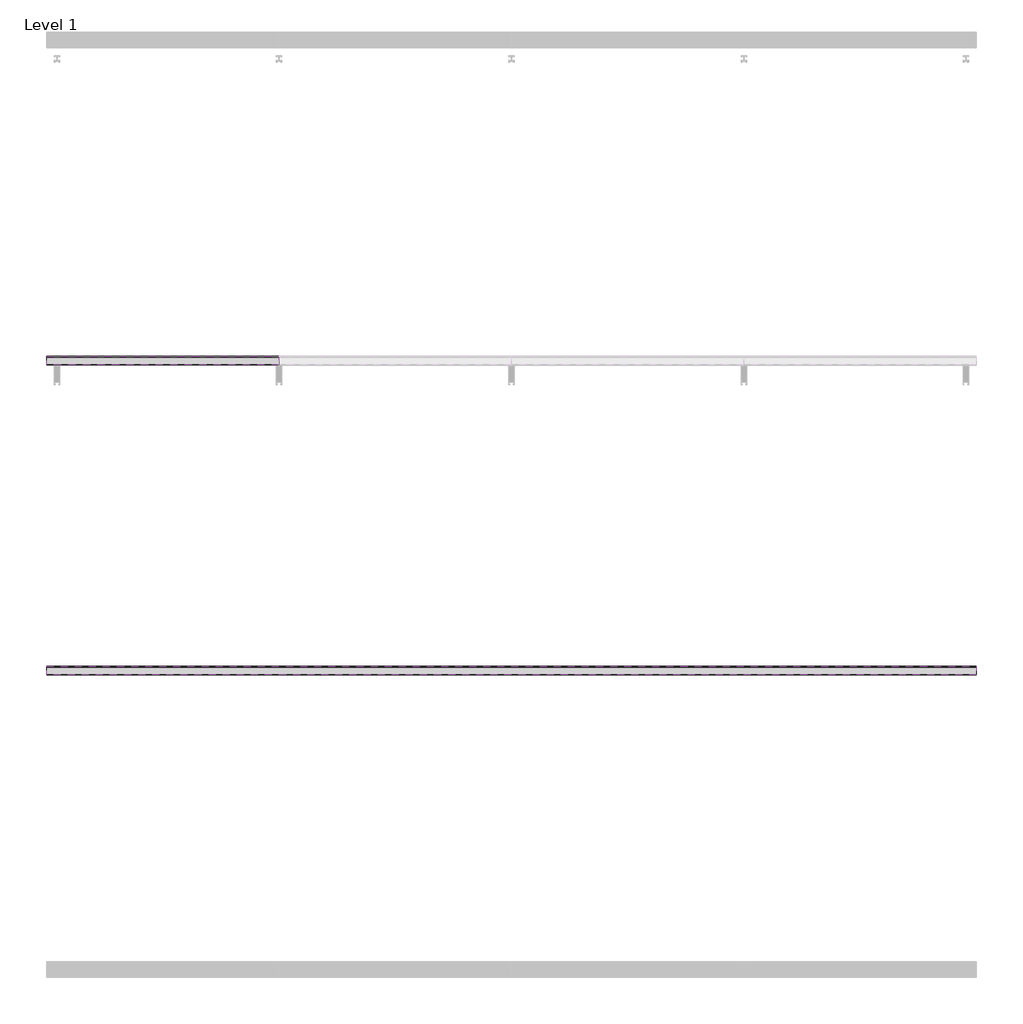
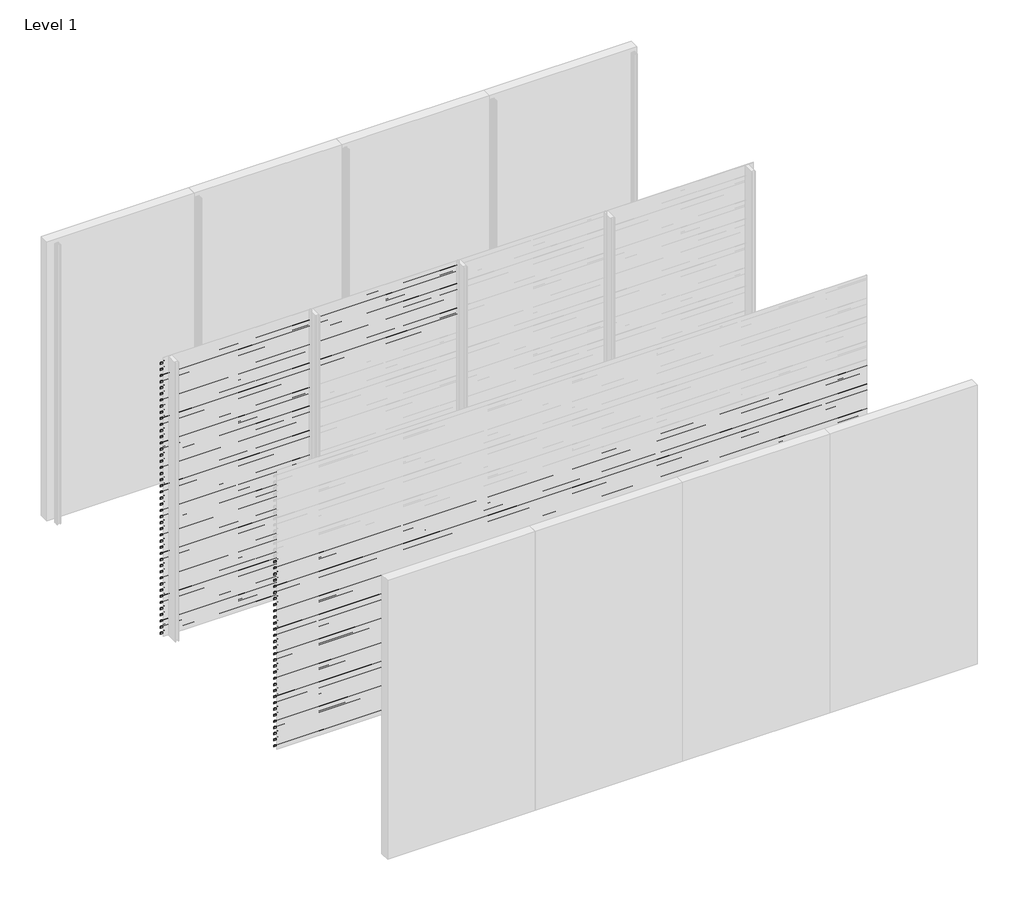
# One storey, part 3 of 25: 87 proxies.
"""IFC4 building model written with IfcOpenShell, lengths in millimetres."""

from ifc_helpers import new_model, si_unit, frame, origin, place, context, project, spatial, polyline, outline, extrude, element, save

model = new_model("IFC4")

# Units and contexts
model_context = context("Model", 3, world=origin())
ifc_project = project(units=[si_unit("LENGTHUNIT", "METRE", prefix="MILLI")], contexts=[model_context])

# Site, building, storey
site = spatial("IfcSite", under=ifc_project)
building = spatial("IfcBuilding", under=site)
storey = spatial("IfcBuildingStorey", under=building, Name="Level 1", Elevation=0.0)

# Proxies
placement = place(None, origin())
element("IfcBuildingElementProxy", 1, Name="Wall Sweeps", at=placement, inside=storey, context=model_context, shape_type="SweptSolid", body=[
    extrude(outline(polyline([(-47943.0, 2913.5), (-47943.0, 2893.5), (-47944.25, 2894.2216933), (-47944.25, 2912.7872415), (-47998.0, 2950.3158044), (-47998.0, 2970.0), (-47996.75, 2970.0), (-47996.75, 2951.0285629), (-47943.0, 2913.5)])), frame((0.0, 0.0, 0.0), z_axis=(1.0, 0.0, 0.0), x_axis=(0.0, 1.0, 0.0)), (0.0, 0.0, 1.0), 1500.0),
])
element("IfcBuildingElementProxy", 2, Name="Wall Sweeps", at=placement, inside=storey, context=model_context, shape_type="SweptSolid", body=[
    extrude(outline(polyline([(-47943.0, 2847.5), (-47943.0, 2827.5), (-47944.25, 2828.2216933), (-47944.25, 2846.7872415), (-47998.0, 2884.3158044), (-47998.0, 2904.0), (-47996.75, 2904.0), (-47996.75, 2885.0285629), (-47943.0, 2847.5)])), frame((0.0, 0.0, 0.0), z_axis=(1.0, 0.0, 0.0), x_axis=(0.0, 1.0, 0.0)), (0.0, 0.0, 1.0), 1500.0),
])
element("IfcBuildingElementProxy", 3, Name="Wall Sweeps", at=placement, inside=storey, context=model_context, shape_type="SweptSolid", body=[
    extrude(outline(polyline([(-47943.0, 2781.5), (-47943.0, 2761.5), (-47944.25, 2762.2216933), (-47944.25, 2780.7872415), (-47998.0, 2818.3158044), (-47998.0, 2838.0), (-47996.75, 2838.0), (-47996.75, 2819.0285629), (-47943.0, 2781.5)])), frame((0.0, 0.0, 0.0), z_axis=(1.0, 0.0, 0.0), x_axis=(0.0, 1.0, 0.0)), (0.0, 0.0, 1.0), 1500.0),
])
element("IfcBuildingElementProxy", 4, Name="Wall Sweeps", at=placement, inside=storey, context=model_context, shape_type="SweptSolid", body=[
    extrude(outline(polyline([(-47943.0, 2715.5), (-47943.0, 2695.5), (-47944.25, 2696.2216933), (-47944.25, 2714.7872415), (-47998.0, 2752.3158044), (-47998.0, 2772.0), (-47996.75, 2772.0), (-47996.75, 2753.0285629), (-47943.0, 2715.5)])), frame((0.0, 0.0, 0.0), z_axis=(1.0, 0.0, 0.0), x_axis=(0.0, 1.0, 0.0)), (0.0, 0.0, 1.0), 1500.0),
])
element("IfcBuildingElementProxy", 5, Name="Wall Sweeps", at=placement, inside=storey, context=model_context, shape_type="SweptSolid", body=[
    extrude(outline(polyline([(-47943.0, 2649.5), (-47943.0, 2629.5), (-47944.25, 2630.2216933), (-47944.25, 2648.7872415), (-47998.0, 2686.3158044), (-47998.0, 2706.0), (-47996.75, 2706.0), (-47996.75, 2687.0285629), (-47943.0, 2649.5)])), frame((0.0, 0.0, 0.0), z_axis=(1.0, 0.0, 0.0), x_axis=(0.0, 1.0, 0.0)), (0.0, 0.0, 1.0), 1500.0),
])
element("IfcBuildingElementProxy", 6, Name="Wall Sweeps", at=placement, inside=storey, context=model_context, shape_type="SweptSolid", body=[
    extrude(outline(polyline([(-47943.0, 2583.5), (-47943.0, 2563.5), (-47944.25, 2564.2216933), (-47944.25, 2582.7872415), (-47998.0, 2620.3158044), (-47998.0, 2640.0), (-47996.75, 2640.0), (-47996.75, 2621.0285629), (-47943.0, 2583.5)])), frame((0.0, 0.0, 0.0), z_axis=(1.0, 0.0, 0.0), x_axis=(0.0, 1.0, 0.0)), (0.0, 0.0, 1.0), 1500.0),
])
element("IfcBuildingElementProxy", 7, Name="Wall Sweeps", at=placement, inside=storey, context=model_context, shape_type="SweptSolid", body=[
    extrude(outline(polyline([(-47943.0, 2517.5), (-47943.0, 2497.5), (-47944.25, 2498.2216933), (-47944.25, 2516.7872415), (-47998.0, 2554.3158044), (-47998.0, 2574.0), (-47996.75, 2574.0), (-47996.75, 2555.0285629), (-47943.0, 2517.5)])), frame((0.0, 0.0, 0.0), z_axis=(1.0, 0.0, 0.0), x_axis=(0.0, 1.0, 0.0)), (0.0, 0.0, 1.0), 1500.0),
])
element("IfcBuildingElementProxy", 8, Name="Wall Sweeps", at=placement, inside=storey, context=model_context, shape_type="SweptSolid", body=[
    extrude(outline(polyline([(-47943.0, 2451.5), (-47943.0, 2431.5), (-47944.25, 2432.2216933), (-47944.25, 2450.7872415), (-47998.0, 2488.3158044), (-47998.0, 2508.0), (-47996.75, 2508.0), (-47996.75, 2489.0285629), (-47943.0, 2451.5)])), frame((0.0, 0.0, 0.0), z_axis=(1.0, 0.0, 0.0), x_axis=(0.0, 1.0, 0.0)), (0.0, 0.0, 1.0), 1500.0),
])
element("IfcBuildingElementProxy", 9, Name="Wall Sweeps", at=placement, inside=storey, context=model_context, shape_type="SweptSolid", body=[
    extrude(outline(polyline([(-47943.0, 2385.5), (-47943.0, 2365.5), (-47944.25, 2366.2216933), (-47944.25, 2384.7872415), (-47998.0, 2422.3158044), (-47998.0, 2442.0), (-47996.75, 2442.0), (-47996.75, 2423.0285629), (-47943.0, 2385.5)])), frame((0.0, 0.0, 0.0), z_axis=(1.0, 0.0, 0.0), x_axis=(0.0, 1.0, 0.0)), (0.0, 0.0, 1.0), 1500.0),
])
element("IfcBuildingElementProxy", 10, Name="Wall Sweeps", at=placement, inside=storey, context=model_context, shape_type="SweptSolid", body=[
    extrude(outline(polyline([(-47943.0, 2319.5), (-47943.0, 2299.5), (-47944.25, 2300.2216933), (-47944.25, 2318.7872415), (-47998.0, 2356.3158044), (-47998.0, 2376.0), (-47996.75, 2376.0), (-47996.75, 2357.0285629), (-47943.0, 2319.5)])), frame((0.0, 0.0, 0.0), z_axis=(1.0, 0.0, 0.0), x_axis=(0.0, 1.0, 0.0)), (0.0, 0.0, 1.0), 1500.0),
])
element("IfcBuildingElementProxy", 11, Name="Wall Sweeps", at=placement, inside=storey, context=model_context, shape_type="SweptSolid", body=[
    extrude(outline(polyline([(-47943.0, 2253.5), (-47943.0, 2233.5), (-47944.25, 2234.2216933), (-47944.25, 2252.7872415), (-47998.0, 2290.3158044), (-47998.0, 2310.0), (-47996.75, 2310.0), (-47996.75, 2291.0285629), (-47943.0, 2253.5)])), frame((0.0, 0.0, 0.0), z_axis=(1.0, 0.0, 0.0), x_axis=(0.0, 1.0, 0.0)), (0.0, 0.0, 1.0), 1500.0),
])
element("IfcBuildingElementProxy", 12, Name="Wall Sweeps", at=placement, inside=storey, context=model_context, shape_type="SweptSolid", body=[
    extrude(outline(polyline([(-47943.0, 2187.5), (-47943.0, 2167.5), (-47944.25, 2168.2216933), (-47944.25, 2186.7872415), (-47998.0, 2224.3158044), (-47998.0, 2244.0), (-47996.75, 2244.0), (-47996.75, 2225.0285629), (-47943.0, 2187.5)])), frame((0.0, 0.0, 0.0), z_axis=(1.0, 0.0, 0.0), x_axis=(0.0, 1.0, 0.0)), (0.0, 0.0, 1.0), 1500.0),
])
element("IfcBuildingElementProxy", 13, Name="Wall Sweeps", at=placement, inside=storey, context=model_context, shape_type="SweptSolid", body=[
    extrude(outline(polyline([(-47943.0, 2121.5), (-47943.0, 2101.5), (-47944.25, 2102.2216933), (-47944.25, 2120.7872415), (-47998.0, 2158.3158044), (-47998.0, 2178.0), (-47996.75, 2178.0), (-47996.75, 2159.0285629), (-47943.0, 2121.5)])), frame((0.0, 0.0, 0.0), z_axis=(1.0, 0.0, 0.0), x_axis=(0.0, 1.0, 0.0)), (0.0, 0.0, 1.0), 1500.0),
])
element("IfcBuildingElementProxy", 14, Name="Wall Sweeps", at=placement, inside=storey, context=model_context, shape_type="SweptSolid", body=[
    extrude(outline(polyline([(-47943.0, 2055.5), (-47943.0, 2035.5), (-47944.25, 2036.2216933), (-47944.25, 2054.7872415), (-47998.0, 2092.3158044), (-47998.0, 2112.0), (-47996.75, 2112.0), (-47996.75, 2093.0285629), (-47943.0, 2055.5)])), frame((0.0, 0.0, 0.0), z_axis=(1.0, 0.0, 0.0), x_axis=(0.0, 1.0, 0.0)), (0.0, 0.0, 1.0), 1500.0),
])
element("IfcBuildingElementProxy", 15, Name="Wall Sweeps", at=placement, inside=storey, context=model_context, shape_type="SweptSolid", body=[
    extrude(outline(polyline([(-47943.0, 1989.5), (-47943.0, 1969.5), (-47944.25, 1970.2216933), (-47944.25, 1988.7872415), (-47998.0, 2026.3158044), (-47998.0, 2046.0), (-47996.75, 2046.0), (-47996.75, 2027.0285629), (-47943.0, 1989.5)])), frame((0.0, 0.0, 0.0), z_axis=(1.0, 0.0, 0.0), x_axis=(0.0, 1.0, 0.0)), (0.0, 0.0, 1.0), 1500.0),
])
element("IfcBuildingElementProxy", 16, Name="Wall Sweeps", at=placement, inside=storey, context=model_context, shape_type="SweptSolid", body=[
    extrude(outline(polyline([(-47943.0, 1923.5), (-47943.0, 1903.5), (-47944.25, 1904.2216933), (-47944.25, 1922.7872415), (-47998.0, 1960.3158044), (-47998.0, 1980.0), (-47996.75, 1980.0), (-47996.75, 1961.0285629), (-47943.0, 1923.5)])), frame((0.0, 0.0, 0.0), z_axis=(1.0, 0.0, 0.0), x_axis=(0.0, 1.0, 0.0)), (0.0, 0.0, 1.0), 1500.0),
])
element("IfcBuildingElementProxy", 17, Name="Wall Sweeps", at=placement, inside=storey, context=model_context, shape_type="SweptSolid", body=[
    extrude(outline(polyline([(-47943.0, 1857.5), (-47943.0, 1837.5), (-47944.25, 1838.2216933), (-47944.25, 1856.7872415), (-47998.0, 1894.3158044), (-47998.0, 1914.0), (-47996.75, 1914.0), (-47996.75, 1895.0285629), (-47943.0, 1857.5)])), frame((0.0, 0.0, 0.0), z_axis=(1.0, 0.0, 0.0), x_axis=(0.0, 1.0, 0.0)), (0.0, 0.0, 1.0), 1500.0),
])
element("IfcBuildingElementProxy", 18, Name="Wall Sweeps", at=placement, inside=storey, context=model_context, shape_type="SweptSolid", body=[
    extrude(outline(polyline([(-47943.0, 1791.5), (-47943.0, 1771.5), (-47944.25, 1772.2216933), (-47944.25, 1790.7872415), (-47998.0, 1828.3158044), (-47998.0, 1848.0), (-47996.75, 1848.0), (-47996.75, 1829.0285629), (-47943.0, 1791.5)])), frame((0.0, 0.0, 0.0), z_axis=(1.0, 0.0, 0.0), x_axis=(0.0, 1.0, 0.0)), (0.0, 0.0, 1.0), 1500.0),
])
element("IfcBuildingElementProxy", 19, Name="Wall Sweeps", at=placement, inside=storey, context=model_context, shape_type="SweptSolid", body=[
    extrude(outline(polyline([(-47943.0, 1725.5), (-47943.0, 1705.5), (-47944.25, 1706.2216933), (-47944.25, 1724.7872415), (-47998.0, 1762.3158044), (-47998.0, 1782.0), (-47996.75, 1782.0), (-47996.75, 1763.0285629), (-47943.0, 1725.5)])), frame((0.0, 0.0, 0.0), z_axis=(1.0, 0.0, 0.0), x_axis=(0.0, 1.0, 0.0)), (0.0, 0.0, 1.0), 1500.0),
])
element("IfcBuildingElementProxy", 20, Name="Wall Sweeps", at=placement, inside=storey, context=model_context, shape_type="SweptSolid", body=[
    extrude(outline(polyline([(-47943.0, 1659.5), (-47943.0, 1639.5), (-47944.25, 1640.2216933), (-47944.25, 1658.7872415), (-47998.0, 1696.3158044), (-47998.0, 1716.0), (-47996.75, 1716.0), (-47996.75, 1697.0285629), (-47943.0, 1659.5)])), frame((0.0, 0.0, 0.0), z_axis=(1.0, 0.0, 0.0), x_axis=(0.0, 1.0, 0.0)), (0.0, 0.0, 1.0), 1500.0),
])
element("IfcBuildingElementProxy", 21, Name="Wall Sweeps", at=placement, inside=storey, context=model_context, shape_type="SweptSolid", body=[
    extrude(outline(polyline([(-47943.0, 1593.5), (-47943.0, 1573.5), (-47944.25, 1574.2216933), (-47944.25, 1592.7872415), (-47998.0, 1630.3158044), (-47998.0, 1650.0), (-47996.75, 1650.0), (-47996.75, 1631.0285629), (-47943.0, 1593.5)])), frame((0.0, 0.0, 0.0), z_axis=(1.0, 0.0, 0.0), x_axis=(0.0, 1.0, 0.0)), (0.0, 0.0, 1.0), 1500.0),
])
element("IfcBuildingElementProxy", 22, Name="Wall Sweeps", at=placement, inside=storey, context=model_context, shape_type="SweptSolid", body=[
    extrude(outline(polyline([(-47943.0, 1527.5), (-47943.0, 1507.5), (-47944.25, 1508.2216933), (-47944.25, 1526.7872415), (-47998.0, 1564.3158044), (-47998.0, 1584.0), (-47996.75, 1584.0), (-47996.75, 1565.0285629), (-47943.0, 1527.5)])), frame((0.0, 0.0, 0.0), z_axis=(1.0, 0.0, 0.0), x_axis=(0.0, 1.0, 0.0)), (0.0, 0.0, 1.0), 1500.0),
])
element("IfcBuildingElementProxy", 23, Name="Wall Sweeps", at=placement, inside=storey, context=model_context, shape_type="SweptSolid", body=[
    extrude(outline(polyline([(-47943.0, 1461.5), (-47943.0, 1441.5), (-47944.25, 1442.2216933), (-47944.25, 1460.7872415), (-47998.0, 1498.3158044), (-47998.0, 1518.0), (-47996.75, 1518.0), (-47996.75, 1499.0285629), (-47943.0, 1461.5)])), frame((0.0, 0.0, 0.0), z_axis=(1.0, 0.0, 0.0), x_axis=(0.0, 1.0, 0.0)), (0.0, 0.0, 1.0), 1500.0),
])
element("IfcBuildingElementProxy", 24, Name="Wall Sweeps", at=placement, inside=storey, context=model_context, shape_type="SweptSolid", body=[
    extrude(outline(polyline([(-47943.0, 1395.5), (-47943.0, 1375.5), (-47944.25, 1376.2216933), (-47944.25, 1394.7872415), (-47998.0, 1432.3158044), (-47998.0, 1452.0), (-47996.75, 1452.0), (-47996.75, 1433.0285629), (-47943.0, 1395.5)])), frame((0.0, 0.0, 0.0), z_axis=(1.0, 0.0, 0.0), x_axis=(0.0, 1.0, 0.0)), (0.0, 0.0, 1.0), 1500.0),
])
element("IfcBuildingElementProxy", 25, Name="Wall Sweeps", at=placement, inside=storey, context=model_context, shape_type="SweptSolid", body=[
    extrude(outline(polyline([(-47943.0, 1329.5), (-47943.0, 1309.5), (-47944.25, 1310.2216933), (-47944.25, 1328.7872415), (-47998.0, 1366.3158044), (-47998.0, 1386.0), (-47996.75, 1386.0), (-47996.75, 1367.0285629), (-47943.0, 1329.5)])), frame((0.0, 0.0, 0.0), z_axis=(1.0, 0.0, 0.0), x_axis=(0.0, 1.0, 0.0)), (0.0, 0.0, 1.0), 1500.0),
])
element("IfcBuildingElementProxy", 26, Name="Wall Sweeps", at=placement, inside=storey, context=model_context, shape_type="SweptSolid", body=[
    extrude(outline(polyline([(-47943.0, 1263.5), (-47943.0, 1243.5), (-47944.25, 1244.2216933), (-47944.25, 1262.7872415), (-47998.0, 1300.3158044), (-47998.0, 1320.0), (-47996.75, 1320.0), (-47996.75, 1301.0285629), (-47943.0, 1263.5)])), frame((0.0, 0.0, 0.0), z_axis=(1.0, 0.0, 0.0), x_axis=(0.0, 1.0, 0.0)), (0.0, 0.0, 1.0), 1500.0),
])
element("IfcBuildingElementProxy", 27, Name="Wall Sweeps", at=placement, inside=storey, context=model_context, shape_type="SweptSolid", body=[
    extrude(outline(polyline([(-47943.0, 1197.5), (-47943.0, 1177.5), (-47944.25, 1178.2216933), (-47944.25, 1196.7872415), (-47998.0, 1234.3158044), (-47998.0, 1254.0), (-47996.75, 1254.0), (-47996.75, 1235.0285629), (-47943.0, 1197.5)])), frame((0.0, 0.0, 0.0), z_axis=(1.0, 0.0, 0.0), x_axis=(0.0, 1.0, 0.0)), (0.0, 0.0, 1.0), 1500.0),
])
element("IfcBuildingElementProxy", 28, Name="Wall Sweeps", at=placement, inside=storey, context=model_context, shape_type="SweptSolid", body=[
    extrude(outline(polyline([(-47943.0, 1131.5), (-47943.0, 1111.5), (-47944.25, 1112.2216933), (-47944.25, 1130.7872415), (-47998.0, 1168.3158044), (-47998.0, 1188.0), (-47996.75, 1188.0), (-47996.75, 1169.0285629), (-47943.0, 1131.5)])), frame((0.0, 0.0, 0.0), z_axis=(1.0, 0.0, 0.0), x_axis=(0.0, 1.0, 0.0)), (0.0, 0.0, 1.0), 1500.0),
])
element("IfcBuildingElementProxy", 29, Name="Wall Sweeps", at=placement, inside=storey, context=model_context, shape_type="SweptSolid", body=[
    extrude(outline(polyline([(-47943.0, 1065.5), (-47943.0, 1045.5), (-47944.25, 1046.2216933), (-47944.25, 1064.7872415), (-47998.0, 1102.3158044), (-47998.0, 1122.0), (-47996.75, 1122.0), (-47996.75, 1103.0285629), (-47943.0, 1065.5)])), frame((0.0, 0.0, 0.0), z_axis=(1.0, 0.0, 0.0), x_axis=(0.0, 1.0, 0.0)), (0.0, 0.0, 1.0), 1500.0),
])
element("IfcBuildingElementProxy", 30, Name="Wall Sweeps", at=placement, inside=storey, context=model_context, shape_type="SweptSolid", body=[
    extrude(outline(polyline([(-47943.0, 999.5), (-47943.0, 979.5), (-47944.25, 980.2216933), (-47944.25, 998.7872415), (-47998.0, 1036.3158044), (-47998.0, 1056.0), (-47996.75, 1056.0), (-47996.75, 1037.0285629), (-47943.0, 999.5)])), frame((0.0, 0.0, 0.0), z_axis=(1.0, 0.0, 0.0), x_axis=(0.0, 1.0, 0.0)), (0.0, 0.0, 1.0), 1500.0),
])
element("IfcBuildingElementProxy", 31, Name="Wall Sweeps", at=placement, inside=storey, context=model_context, shape_type="SweptSolid", body=[
    extrude(outline(polyline([(-47943.0, 933.5), (-47943.0, 913.5), (-47944.25, 914.2216933), (-47944.25, 932.7872415), (-47998.0, 970.3158044), (-47998.0, 990.0), (-47996.75, 990.0), (-47996.75, 971.0285629), (-47943.0, 933.5)])), frame((0.0, 0.0, 0.0), z_axis=(1.0, 0.0, 0.0), x_axis=(0.0, 1.0, 0.0)), (0.0, 0.0, 1.0), 1500.0),
])
element("IfcBuildingElementProxy", 32, Name="Wall Sweeps", at=placement, inside=storey, context=model_context, shape_type="SweptSolid", body=[
    extrude(outline(polyline([(-47943.0, 867.5), (-47943.0, 847.5), (-47944.25, 848.2216933), (-47944.25, 866.7872415), (-47998.0, 904.3158044), (-47998.0, 924.0), (-47996.75, 924.0), (-47996.75, 905.0285629), (-47943.0, 867.5)])), frame((0.0, 0.0, 0.0), z_axis=(1.0, 0.0, 0.0), x_axis=(0.0, 1.0, 0.0)), (0.0, 0.0, 1.0), 1500.0),
])
element("IfcBuildingElementProxy", 33, Name="Wall Sweeps", at=placement, inside=storey, context=model_context, shape_type="SweptSolid", body=[
    extrude(outline(polyline([(-47943.0, 801.5), (-47943.0, 781.5), (-47944.25, 782.2216933), (-47944.25, 800.7872415), (-47998.0, 838.3158044), (-47998.0, 858.0), (-47996.75, 858.0), (-47996.75, 839.0285629), (-47943.0, 801.5)])), frame((0.0, 0.0, 0.0), z_axis=(1.0, 0.0, 0.0), x_axis=(0.0, 1.0, 0.0)), (0.0, 0.0, 1.0), 1500.0),
])
element("IfcBuildingElementProxy", 34, Name="Wall Sweeps", at=placement, inside=storey, context=model_context, shape_type="SweptSolid", body=[
    extrude(outline(polyline([(-47943.0, 735.5), (-47943.0, 715.5), (-47944.25, 716.2216933), (-47944.25, 734.7872415), (-47998.0, 772.3158044), (-47998.0, 792.0), (-47996.75, 792.0), (-47996.75, 773.0285629), (-47943.0, 735.5)])), frame((0.0, 0.0, 0.0), z_axis=(1.0, 0.0, 0.0), x_axis=(0.0, 1.0, 0.0)), (0.0, 0.0, 1.0), 1500.0),
])
element("IfcBuildingElementProxy", 35, Name="Wall Sweeps", at=placement, inside=storey, context=model_context, shape_type="SweptSolid", body=[
    extrude(outline(polyline([(-47943.0, 669.5), (-47943.0, 649.5), (-47944.25, 650.2216933), (-47944.25, 668.7872415), (-47998.0, 706.3158044), (-47998.0, 726.0), (-47996.75, 726.0), (-47996.75, 707.0285629), (-47943.0, 669.5)])), frame((0.0, 0.0, 0.0), z_axis=(1.0, 0.0, 0.0), x_axis=(0.0, 1.0, 0.0)), (0.0, 0.0, 1.0), 1500.0),
])
element("IfcBuildingElementProxy", 36, Name="Wall Sweeps", at=placement, inside=storey, context=model_context, shape_type="SweptSolid", body=[
    extrude(outline(polyline([(-47943.0, 603.5), (-47943.0, 583.5), (-47944.25, 584.2216933), (-47944.25, 602.7872415), (-47998.0, 640.3158044), (-47998.0, 660.0), (-47996.75, 660.0), (-47996.75, 641.0285629), (-47943.0, 603.5)])), frame((0.0, 0.0, 0.0), z_axis=(1.0, 0.0, 0.0), x_axis=(0.0, 1.0, 0.0)), (0.0, 0.0, 1.0), 1500.0),
])
element("IfcBuildingElementProxy", 37, Name="Wall Sweeps", at=placement, inside=storey, context=model_context, shape_type="SweptSolid", body=[
    extrude(outline(polyline([(-47943.0, 537.5), (-47943.0, 517.5), (-47944.25, 518.2216933), (-47944.25, 536.7872415), (-47998.0, 574.3158044), (-47998.0, 594.0), (-47996.75, 594.0), (-47996.75, 575.0285629), (-47943.0, 537.5)])), frame((0.0, 0.0, 0.0), z_axis=(1.0, 0.0, 0.0), x_axis=(0.0, 1.0, 0.0)), (0.0, 0.0, 1.0), 1500.0),
])
element("IfcBuildingElementProxy", 38, Name="Wall Sweeps", at=placement, inside=storey, context=model_context, shape_type="SweptSolid", body=[
    extrude(outline(polyline([(-47943.0, 471.5), (-47943.0, 451.5), (-47944.25, 452.2216933), (-47944.25, 470.7872415), (-47998.0, 508.3158044), (-47998.0, 528.0), (-47996.75, 528.0), (-47996.75, 509.0285629), (-47943.0, 471.5)])), frame((0.0, 0.0, 0.0), z_axis=(1.0, 0.0, 0.0), x_axis=(0.0, 1.0, 0.0)), (0.0, 0.0, 1.0), 1500.0),
])
element("IfcBuildingElementProxy", 39, Name="Wall Sweeps", at=placement, inside=storey, context=model_context, shape_type="SweptSolid", body=[
    extrude(outline(polyline([(-47943.0, 405.5), (-47943.0, 385.5), (-47944.25, 386.2216933), (-47944.25, 404.7872415), (-47998.0, 442.3158044), (-47998.0, 462.0), (-47996.75, 462.0), (-47996.75, 443.0285629), (-47943.0, 405.5)])), frame((0.0, 0.0, 0.0), z_axis=(1.0, 0.0, 0.0), x_axis=(0.0, 1.0, 0.0)), (0.0, 0.0, 1.0), 1500.0),
])
element("IfcBuildingElementProxy", 40, Name="Wall Sweeps", at=placement, inside=storey, context=model_context, shape_type="SweptSolid", body=[
    extrude(outline(polyline([(-47943.0, 339.5), (-47943.0, 319.5), (-47944.25, 320.2216933), (-47944.25, 338.7872415), (-47998.0, 376.3158044), (-47998.0, 396.0), (-47996.75, 396.0), (-47996.75, 377.0285629), (-47943.0, 339.5)])), frame((0.0, 0.0, 0.0), z_axis=(1.0, 0.0, 0.0), x_axis=(0.0, 1.0, 0.0)), (0.0, 0.0, 1.0), 1500.0),
])
element("IfcBuildingElementProxy", 41, Name="Wall Sweeps", at=placement, inside=storey, context=model_context, shape_type="SweptSolid", body=[
    extrude(outline(polyline([(-47943.0, 273.5), (-47943.0, 253.5), (-47944.25, 254.2216933), (-47944.25, 272.7872415), (-47998.0, 310.3158044), (-47998.0, 330.0), (-47996.75, 330.0), (-47996.75, 311.0285629), (-47943.0, 273.5)])), frame((0.0, 0.0, 0.0), z_axis=(1.0, 0.0, 0.0), x_axis=(0.0, 1.0, 0.0)), (0.0, 0.0, 1.0), 1500.0),
])
element("IfcBuildingElementProxy", 42, Name="Wall Sweeps", at=placement, inside=storey, context=model_context, shape_type="SweptSolid", body=[
    extrude(outline(polyline([(-47943.0, 207.5), (-47943.0, 187.5), (-47944.25, 188.2216933), (-47944.25, 206.7872415), (-47998.0, 244.3158044), (-47998.0, 264.0), (-47996.75, 264.0), (-47996.75, 245.0285629), (-47943.0, 207.5)])), frame((0.0, 0.0, 0.0), z_axis=(1.0, 0.0, 0.0), x_axis=(0.0, 1.0, 0.0)), (0.0, 0.0, 1.0), 1500.0),
])
element("IfcBuildingElementProxy", 43, Name="Wall Sweeps", at=placement, inside=storey, context=model_context, shape_type="SweptSolid", body=[
    extrude(outline(polyline([(-47943.0, 141.5), (-47943.0, 121.5), (-47944.25, 122.2216933), (-47944.25, 140.7872415), (-47998.0, 178.3158044), (-47998.0, 198.0), (-47996.75, 198.0), (-47996.75, 179.0285629), (-47943.0, 141.5)])), frame((0.0, 0.0, 0.0), z_axis=(1.0, 0.0, 0.0), x_axis=(0.0, 1.0, 0.0)), (0.0, 0.0, 1.0), 1500.0),
])
element("IfcBuildingElementProxy", 44, Name="Wall Sweeps", at=placement, inside=storey, context=model_context, shape_type="SweptSolid", body=[
    extrude(outline(polyline([(-47943.0, 75.5), (-47943.0, 55.5), (-47944.25, 56.2216933), (-47944.25, 74.7872415), (-47998.0, 112.3158044), (-47998.0, 132.0), (-47996.75, 132.0), (-47996.75, 113.0285629), (-47943.0, 75.5)])), frame((0.0, 0.0, 0.0), z_axis=(1.0, 0.0, 0.0), x_axis=(0.0, 1.0, 0.0)), (0.0, 0.0, 1.0), 1500.0),
])
element("IfcBuildingElementProxy", 45, Name="Wall Sweeps", at=placement, inside=storey, context=model_context, shape_type="SweptSolid", body=[
    extrude(outline(polyline([(-47943.0, 9.5), (-47943.0, -10.5), (-47944.25, -9.7783067), (-47944.25, 8.7872415), (-47998.0, 46.3158044), (-47998.0, 66.0), (-47996.75, 66.0), (-47996.75, 47.0285629), (-47943.0, 9.5)])), frame((0.0, 0.0, 0.0), z_axis=(1.0, 0.0, 0.0), x_axis=(0.0, 1.0, 0.0)), (0.0, 0.0, 1.0), 1500.0),
])
element("IfcBuildingElementProxy", 46, Name="Wall Sweeps", at=placement, inside=storey, context=model_context, shape_type="SweptSolid", body=[
    extrude(outline(polyline([(-47943.0, 2913.5), (-47943.0, 2893.5), (-47944.25, 2894.2216933), (-47944.25, 2912.7872415), (-47998.0, 2950.3158044), (-47998.0, 2970.0), (-47996.75, 2970.0), (-47996.75, 2951.0285629), (-47943.0, 2913.5)])), frame((1500.0, 0.0, 0.0), z_axis=(1.0, 0.0, 0.0), x_axis=(0.0, 1.0, 0.0)), (0.0, 0.0, 1.0), 1500.0),
])
element("IfcBuildingElementProxy", 47, Name="Wall Sweeps", at=placement, inside=storey, context=model_context, shape_type="SweptSolid", body=[
    extrude(outline(polyline([(-47943.0, 2847.5), (-47943.0, 2827.5), (-47944.25, 2828.2216933), (-47944.25, 2846.7872415), (-47998.0, 2884.3158044), (-47998.0, 2904.0), (-47996.75, 2904.0), (-47996.75, 2885.0285629), (-47943.0, 2847.5)])), frame((1500.0, 0.0, 0.0), z_axis=(1.0, 0.0, 0.0), x_axis=(0.0, 1.0, 0.0)), (0.0, 0.0, 1.0), 1500.0),
])
element("IfcBuildingElementProxy", 48, Name="Wall Sweeps", at=placement, inside=storey, context=model_context, shape_type="SweptSolid", body=[
    extrude(outline(polyline([(-47943.0, 2781.5), (-47943.0, 2761.5), (-47944.25, 2762.2216933), (-47944.25, 2780.7872415), (-47998.0, 2818.3158044), (-47998.0, 2838.0), (-47996.75, 2838.0), (-47996.75, 2819.0285629), (-47943.0, 2781.5)])), frame((1500.0, 0.0, 0.0), z_axis=(1.0, 0.0, 0.0), x_axis=(0.0, 1.0, 0.0)), (0.0, 0.0, 1.0), 1500.0),
])
element("IfcBuildingElementProxy", 49, Name="Wall Sweeps", at=placement, inside=storey, context=model_context, shape_type="SweptSolid", body=[
    extrude(outline(polyline([(-47943.0, 2715.5), (-47943.0, 2695.5), (-47944.25, 2696.2216933), (-47944.25, 2714.7872415), (-47998.0, 2752.3158044), (-47998.0, 2772.0), (-47996.75, 2772.0), (-47996.75, 2753.0285629), (-47943.0, 2715.5)])), frame((1500.0, 0.0, 0.0), z_axis=(1.0, 0.0, 0.0), x_axis=(0.0, 1.0, 0.0)), (0.0, 0.0, 1.0), 1500.0),
])
element("IfcBuildingElementProxy", 50, Name="Wall Sweeps", at=placement, inside=storey, context=model_context, shape_type="SweptSolid", body=[
    extrude(outline(polyline([(-47943.0, 2649.5), (-47943.0, 2629.5), (-47944.25, 2630.2216933), (-47944.25, 2648.7872415), (-47998.0, 2686.3158044), (-47998.0, 2706.0), (-47996.75, 2706.0), (-47996.75, 2687.0285629), (-47943.0, 2649.5)])), frame((1500.0, 0.0, 0.0), z_axis=(1.0, 0.0, 0.0), x_axis=(0.0, 1.0, 0.0)), (0.0, 0.0, 1.0), 1500.0),
])
element("IfcBuildingElementProxy", 51, Name="Wall Sweeps", at=placement, inside=storey, context=model_context, shape_type="SweptSolid", body=[
    extrude(outline(polyline([(-47943.0, 2583.5), (-47943.0, 2563.5), (-47944.25, 2564.2216933), (-47944.25, 2582.7872415), (-47998.0, 2620.3158044), (-47998.0, 2640.0), (-47996.75, 2640.0), (-47996.75, 2621.0285629), (-47943.0, 2583.5)])), frame((1500.0, 0.0, 0.0), z_axis=(1.0, 0.0, 0.0), x_axis=(0.0, 1.0, 0.0)), (0.0, 0.0, 1.0), 1500.0),
])
element("IfcBuildingElementProxy", 52, Name="Wall Sweeps", at=placement, inside=storey, context=model_context, shape_type="SweptSolid", body=[
    extrude(outline(polyline([(-47943.0, 2517.5), (-47943.0, 2497.5), (-47944.25, 2498.2216933), (-47944.25, 2516.7872415), (-47998.0, 2554.3158044), (-47998.0, 2574.0), (-47996.75, 2574.0), (-47996.75, 2555.0285629), (-47943.0, 2517.5)])), frame((1500.0, 0.0, 0.0), z_axis=(1.0, 0.0, 0.0), x_axis=(0.0, 1.0, 0.0)), (0.0, 0.0, 1.0), 1500.0),
])
element("IfcBuildingElementProxy", 53, Name="Wall Sweeps", at=placement, inside=storey, context=model_context, shape_type="SweptSolid", body=[
    extrude(outline(polyline([(-47943.0, 2451.5), (-47943.0, 2431.5), (-47944.25, 2432.2216933), (-47944.25, 2450.7872415), (-47998.0, 2488.3158044), (-47998.0, 2508.0), (-47996.75, 2508.0), (-47996.75, 2489.0285629), (-47943.0, 2451.5)])), frame((1500.0, 0.0, 0.0), z_axis=(1.0, 0.0, 0.0), x_axis=(0.0, 1.0, 0.0)), (0.0, 0.0, 1.0), 1500.0),
])
element("IfcBuildingElementProxy", 54, Name="Wall Sweeps", at=placement, inside=storey, context=model_context, shape_type="SweptSolid", body=[
    extrude(outline(polyline([(-47943.0, 2385.5), (-47943.0, 2365.5), (-47944.25, 2366.2216933), (-47944.25, 2384.7872415), (-47998.0, 2422.3158044), (-47998.0, 2442.0), (-47996.75, 2442.0), (-47996.75, 2423.0285629), (-47943.0, 2385.5)])), frame((1500.0, 0.0, 0.0), z_axis=(1.0, 0.0, 0.0), x_axis=(0.0, 1.0, 0.0)), (0.0, 0.0, 1.0), 1500.0),
])
element("IfcBuildingElementProxy", 55, Name="Wall Sweeps", at=placement, inside=storey, context=model_context, shape_type="SweptSolid", body=[
    extrude(outline(polyline([(-47943.0, 2319.5), (-47943.0, 2299.5), (-47944.25, 2300.2216933), (-47944.25, 2318.7872415), (-47998.0, 2356.3158044), (-47998.0, 2376.0), (-47996.75, 2376.0), (-47996.75, 2357.0285629), (-47943.0, 2319.5)])), frame((1500.0, 0.0, 0.0), z_axis=(1.0, 0.0, 0.0), x_axis=(0.0, 1.0, 0.0)), (0.0, 0.0, 1.0), 1500.0),
])
element("IfcBuildingElementProxy", 56, Name="Wall Sweeps", at=placement, inside=storey, context=model_context, shape_type="SweptSolid", body=[
    extrude(outline(polyline([(-47943.0, 2253.5), (-47943.0, 2233.5), (-47944.25, 2234.2216933), (-47944.25, 2252.7872415), (-47998.0, 2290.3158044), (-47998.0, 2310.0), (-47996.75, 2310.0), (-47996.75, 2291.0285629), (-47943.0, 2253.5)])), frame((1500.0, 0.0, 0.0), z_axis=(1.0, 0.0, 0.0), x_axis=(0.0, 1.0, 0.0)), (0.0, 0.0, 1.0), 1500.0),
])
element("IfcBuildingElementProxy", 57, Name="Wall Sweeps", at=placement, inside=storey, context=model_context, shape_type="SweptSolid", body=[
    extrude(outline(polyline([(-49943.0, 1989.5), (-49943.0, 1969.5), (-49944.25, 1970.2216933), (-49944.25, 1988.7872415), (-49998.0, 2026.3158044), (-49998.0, 2046.0), (-49996.75, 2046.0), (-49996.75, 2027.0285629), (-49943.0, 1989.5)])), frame((0.0, 0.0, 0.0), z_axis=(1.0, 0.0, 0.0), x_axis=(0.0, 1.0, 0.0)), (0.0, 0.0, 1.0), 6000.0),
])
element("IfcBuildingElementProxy", 58, Name="Wall Sweeps", at=placement, inside=storey, context=model_context, shape_type="SweptSolid", body=[
    extrude(outline(polyline([(-49943.0, 1923.5), (-49943.0, 1903.5), (-49944.25, 1904.2216933), (-49944.25, 1922.7872415), (-49998.0, 1960.3158044), (-49998.0, 1980.0), (-49996.75, 1980.0), (-49996.75, 1961.0285629), (-49943.0, 1923.5)])), frame((0.0, 0.0, 0.0), z_axis=(1.0, 0.0, 0.0), x_axis=(0.0, 1.0, 0.0)), (0.0, 0.0, 1.0), 6000.0),
])
element("IfcBuildingElementProxy", 59, Name="Wall Sweeps", at=placement, inside=storey, context=model_context, shape_type="SweptSolid", body=[
    extrude(outline(polyline([(-49943.0, 1857.5), (-49943.0, 1837.5), (-49944.25, 1838.2216933), (-49944.25, 1856.7872415), (-49998.0, 1894.3158044), (-49998.0, 1914.0), (-49996.75, 1914.0), (-49996.75, 1895.0285629), (-49943.0, 1857.5)])), frame((0.0, 0.0, 0.0), z_axis=(1.0, 0.0, 0.0), x_axis=(0.0, 1.0, 0.0)), (0.0, 0.0, 1.0), 6000.0),
])
element("IfcBuildingElementProxy", 60, Name="Wall Sweeps", at=placement, inside=storey, context=model_context, shape_type="SweptSolid", body=[
    extrude(outline(polyline([(-49943.0, 1791.5), (-49943.0, 1771.5), (-49944.25, 1772.2216933), (-49944.25, 1790.7872415), (-49998.0, 1828.3158044), (-49998.0, 1848.0), (-49996.75, 1848.0), (-49996.75, 1829.0285629), (-49943.0, 1791.5)])), frame((0.0, 0.0, 0.0), z_axis=(1.0, 0.0, 0.0), x_axis=(0.0, 1.0, 0.0)), (0.0, 0.0, 1.0), 6000.0),
])
element("IfcBuildingElementProxy", 61, Name="Wall Sweeps", at=placement, inside=storey, context=model_context, shape_type="SweptSolid", body=[
    extrude(outline(polyline([(-49943.0, 1725.5), (-49943.0, 1705.5), (-49944.25, 1706.2216933), (-49944.25, 1724.7872415), (-49998.0, 1762.3158044), (-49998.0, 1782.0), (-49996.75, 1782.0), (-49996.75, 1763.0285629), (-49943.0, 1725.5)])), frame((0.0, 0.0, 0.0), z_axis=(1.0, 0.0, 0.0), x_axis=(0.0, 1.0, 0.0)), (0.0, 0.0, 1.0), 6000.0),
])
element("IfcBuildingElementProxy", 62, Name="Wall Sweeps", at=placement, inside=storey, context=model_context, shape_type="SweptSolid", body=[
    extrude(outline(polyline([(-49943.0, 1659.5), (-49943.0, 1639.5), (-49944.25, 1640.2216933), (-49944.25, 1658.7872415), (-49998.0, 1696.3158044), (-49998.0, 1716.0), (-49996.75, 1716.0), (-49996.75, 1697.0285629), (-49943.0, 1659.5)])), frame((0.0, 0.0, 0.0), z_axis=(1.0, 0.0, 0.0), x_axis=(0.0, 1.0, 0.0)), (0.0, 0.0, 1.0), 6000.0),
])
element("IfcBuildingElementProxy", 63, Name="Wall Sweeps", at=placement, inside=storey, context=model_context, shape_type="SweptSolid", body=[
    extrude(outline(polyline([(-49943.0, 1593.5), (-49943.0, 1573.5), (-49944.25, 1574.2216933), (-49944.25, 1592.7872415), (-49998.0, 1630.3158044), (-49998.0, 1650.0), (-49996.75, 1650.0), (-49996.75, 1631.0285629), (-49943.0, 1593.5)])), frame((0.0, 0.0, 0.0), z_axis=(1.0, 0.0, 0.0), x_axis=(0.0, 1.0, 0.0)), (0.0, 0.0, 1.0), 6000.0),
])
element("IfcBuildingElementProxy", 64, Name="Wall Sweeps", at=placement, inside=storey, context=model_context, shape_type="SweptSolid", body=[
    extrude(outline(polyline([(-49943.0, 1527.5), (-49943.0, 1507.5), (-49944.25, 1508.2216933), (-49944.25, 1526.7872415), (-49998.0, 1564.3158044), (-49998.0, 1584.0), (-49996.75, 1584.0), (-49996.75, 1565.0285629), (-49943.0, 1527.5)])), frame((0.0, 0.0, 0.0), z_axis=(1.0, 0.0, 0.0), x_axis=(0.0, 1.0, 0.0)), (0.0, 0.0, 1.0), 6000.0),
])
element("IfcBuildingElementProxy", 65, Name="Wall Sweeps", at=placement, inside=storey, context=model_context, shape_type="SweptSolid", body=[
    extrude(outline(polyline([(-49943.0, 1461.5), (-49943.0, 1441.5), (-49944.25, 1442.2216933), (-49944.25, 1460.7872415), (-49998.0, 1498.3158044), (-49998.0, 1518.0), (-49996.75, 1518.0), (-49996.75, 1499.0285629), (-49943.0, 1461.5)])), frame((0.0, 0.0, 0.0), z_axis=(1.0, 0.0, 0.0), x_axis=(0.0, 1.0, 0.0)), (0.0, 0.0, 1.0), 6000.0),
])
element("IfcBuildingElementProxy", 66, Name="Wall Sweeps", at=placement, inside=storey, context=model_context, shape_type="SweptSolid", body=[
    extrude(outline(polyline([(-49943.0, 1395.5), (-49943.0, 1375.5), (-49944.25, 1376.2216933), (-49944.25, 1394.7872415), (-49998.0, 1432.3158044), (-49998.0, 1452.0), (-49996.75, 1452.0), (-49996.75, 1433.0285629), (-49943.0, 1395.5)])), frame((0.0, 0.0, 0.0), z_axis=(1.0, 0.0, 0.0), x_axis=(0.0, 1.0, 0.0)), (0.0, 0.0, 1.0), 6000.0),
])
element("IfcBuildingElementProxy", 67, Name="Wall Sweeps", at=placement, inside=storey, context=model_context, shape_type="SweptSolid", body=[
    extrude(outline(polyline([(-49943.0, 1329.5), (-49943.0, 1309.5), (-49944.25, 1310.2216933), (-49944.25, 1328.7872415), (-49998.0, 1366.3158044), (-49998.0, 1386.0), (-49996.75, 1386.0), (-49996.75, 1367.0285629), (-49943.0, 1329.5)])), frame((0.0, 0.0, 0.0), z_axis=(1.0, 0.0, 0.0), x_axis=(0.0, 1.0, 0.0)), (0.0, 0.0, 1.0), 6000.0),
])
element("IfcBuildingElementProxy", 68, Name="Wall Sweeps", at=placement, inside=storey, context=model_context, shape_type="SweptSolid", body=[
    extrude(outline(polyline([(-49943.0, 1263.5), (-49943.0, 1243.5), (-49944.25, 1244.2216933), (-49944.25, 1262.7872415), (-49998.0, 1300.3158044), (-49998.0, 1320.0), (-49996.75, 1320.0), (-49996.75, 1301.0285629), (-49943.0, 1263.5)])), frame((0.0, 0.0, 0.0), z_axis=(1.0, 0.0, 0.0), x_axis=(0.0, 1.0, 0.0)), (0.0, 0.0, 1.0), 6000.0),
])
element("IfcBuildingElementProxy", 69, Name="Wall Sweeps", at=placement, inside=storey, context=model_context, shape_type="SweptSolid", body=[
    extrude(outline(polyline([(-49943.0, 1197.5), (-49943.0, 1177.5), (-49944.25, 1178.2216933), (-49944.25, 1196.7872415), (-49998.0, 1234.3158044), (-49998.0, 1254.0), (-49996.75, 1254.0), (-49996.75, 1235.0285629), (-49943.0, 1197.5)])), frame((0.0, 0.0, 0.0), z_axis=(1.0, 0.0, 0.0), x_axis=(0.0, 1.0, 0.0)), (0.0, 0.0, 1.0), 6000.0),
])
element("IfcBuildingElementProxy", 70, Name="Wall Sweeps", at=placement, inside=storey, context=model_context, shape_type="SweptSolid", body=[
    extrude(outline(polyline([(-49943.0, 1131.5), (-49943.0, 1111.5), (-49944.25, 1112.2216933), (-49944.25, 1130.7872415), (-49998.0, 1168.3158044), (-49998.0, 1188.0), (-49996.75, 1188.0), (-49996.75, 1169.0285629), (-49943.0, 1131.5)])), frame((0.0, 0.0, 0.0), z_axis=(1.0, 0.0, 0.0), x_axis=(0.0, 1.0, 0.0)), (0.0, 0.0, 1.0), 6000.0),
])
element("IfcBuildingElementProxy", 71, Name="Wall Sweeps", at=placement, inside=storey, context=model_context, shape_type="SweptSolid", body=[
    extrude(outline(polyline([(-49943.0, 1065.5), (-49943.0, 1045.5), (-49944.25, 1046.2216933), (-49944.25, 1064.7872415), (-49998.0, 1102.3158044), (-49998.0, 1122.0), (-49996.75, 1122.0), (-49996.75, 1103.0285629), (-49943.0, 1065.5)])), frame((0.0, 0.0, 0.0), z_axis=(1.0, 0.0, 0.0), x_axis=(0.0, 1.0, 0.0)), (0.0, 0.0, 1.0), 6000.0),
])
element("IfcBuildingElementProxy", 72, Name="Wall Sweeps", at=placement, inside=storey, context=model_context, shape_type="SweptSolid", body=[
    extrude(outline(polyline([(-49943.0, 999.5), (-49943.0, 979.5), (-49944.25, 980.2216933), (-49944.25, 998.7872415), (-49998.0, 1036.3158044), (-49998.0, 1056.0), (-49996.75, 1056.0), (-49996.75, 1037.0285629), (-49943.0, 999.5)])), frame((0.0, 0.0, 0.0), z_axis=(1.0, 0.0, 0.0), x_axis=(0.0, 1.0, 0.0)), (0.0, 0.0, 1.0), 6000.0),
])
element("IfcBuildingElementProxy", 73, Name="Wall Sweeps", at=placement, inside=storey, context=model_context, shape_type="SweptSolid", body=[
    extrude(outline(polyline([(-49943.0, 933.5), (-49943.0, 913.5), (-49944.25, 914.2216933), (-49944.25, 932.7872415), (-49998.0, 970.3158044), (-49998.0, 990.0), (-49996.75, 990.0), (-49996.75, 971.0285629), (-49943.0, 933.5)])), frame((0.0, 0.0, 0.0), z_axis=(1.0, 0.0, 0.0), x_axis=(0.0, 1.0, 0.0)), (0.0, 0.0, 1.0), 6000.0),
])
element("IfcBuildingElementProxy", 74, Name="Wall Sweeps", at=placement, inside=storey, context=model_context, shape_type="SweptSolid", body=[
    extrude(outline(polyline([(-49943.0, 867.5), (-49943.0, 847.5), (-49944.25, 848.2216933), (-49944.25, 866.7872415), (-49998.0, 904.3158044), (-49998.0, 924.0), (-49996.75, 924.0), (-49996.75, 905.0285629), (-49943.0, 867.5)])), frame((0.0, 0.0, 0.0), z_axis=(1.0, 0.0, 0.0), x_axis=(0.0, 1.0, 0.0)), (0.0, 0.0, 1.0), 6000.0),
])
element("IfcBuildingElementProxy", 75, Name="Wall Sweeps", at=placement, inside=storey, context=model_context, shape_type="SweptSolid", body=[
    extrude(outline(polyline([(-49943.0, 801.5), (-49943.0, 781.5), (-49944.25, 782.2216933), (-49944.25, 800.7872415), (-49998.0, 838.3158044), (-49998.0, 858.0), (-49996.75, 858.0), (-49996.75, 839.0285629), (-49943.0, 801.5)])), frame((0.0, 0.0, 0.0), z_axis=(1.0, 0.0, 0.0), x_axis=(0.0, 1.0, 0.0)), (0.0, 0.0, 1.0), 6000.0),
])
element("IfcBuildingElementProxy", 76, Name="Wall Sweeps", at=placement, inside=storey, context=model_context, shape_type="SweptSolid", body=[
    extrude(outline(polyline([(-49943.0, 735.5), (-49943.0, 715.5), (-49944.25, 716.2216933), (-49944.25, 734.7872415), (-49998.0, 772.3158044), (-49998.0, 792.0), (-49996.75, 792.0), (-49996.75, 773.0285629), (-49943.0, 735.5)])), frame((0.0, 0.0, 0.0), z_axis=(1.0, 0.0, 0.0), x_axis=(0.0, 1.0, 0.0)), (0.0, 0.0, 1.0), 6000.0),
])
element("IfcBuildingElementProxy", 77, Name="Wall Sweeps", at=placement, inside=storey, context=model_context, shape_type="SweptSolid", body=[
    extrude(outline(polyline([(-49943.0, 669.5), (-49943.0, 649.5), (-49944.25, 650.2216933), (-49944.25, 668.7872415), (-49998.0, 706.3158044), (-49998.0, 726.0), (-49996.75, 726.0), (-49996.75, 707.0285629), (-49943.0, 669.5)])), frame((0.0, 0.0, 0.0), z_axis=(1.0, 0.0, 0.0), x_axis=(0.0, 1.0, 0.0)), (0.0, 0.0, 1.0), 6000.0),
])
element("IfcBuildingElementProxy", 78, Name="Wall Sweeps", at=placement, inside=storey, context=model_context, shape_type="SweptSolid", body=[
    extrude(outline(polyline([(-49943.0, 603.5), (-49943.0, 583.5), (-49944.25, 584.2216933), (-49944.25, 602.7872415), (-49998.0, 640.3158044), (-49998.0, 660.0), (-49996.75, 660.0), (-49996.75, 641.0285629), (-49943.0, 603.5)])), frame((0.0, 0.0, 0.0), z_axis=(1.0, 0.0, 0.0), x_axis=(0.0, 1.0, 0.0)), (0.0, 0.0, 1.0), 6000.0),
])
element("IfcBuildingElementProxy", 79, Name="Wall Sweeps", at=placement, inside=storey, context=model_context, shape_type="SweptSolid", body=[
    extrude(outline(polyline([(-49943.0, 537.5), (-49943.0, 517.5), (-49944.25, 518.2216933), (-49944.25, 536.7872415), (-49998.0, 574.3158044), (-49998.0, 594.0), (-49996.75, 594.0), (-49996.75, 575.0285629), (-49943.0, 537.5)])), frame((0.0, 0.0, 0.0), z_axis=(1.0, 0.0, 0.0), x_axis=(0.0, 1.0, 0.0)), (0.0, 0.0, 1.0), 6000.0),
])
element("IfcBuildingElementProxy", 80, Name="Wall Sweeps", at=placement, inside=storey, context=model_context, shape_type="SweptSolid", body=[
    extrude(outline(polyline([(-49943.0, 471.5), (-49943.0, 451.5), (-49944.25, 452.2216933), (-49944.25, 470.7872415), (-49998.0, 508.3158044), (-49998.0, 528.0), (-49996.75, 528.0), (-49996.75, 509.0285629), (-49943.0, 471.5)])), frame((0.0, 0.0, 0.0), z_axis=(1.0, 0.0, 0.0), x_axis=(0.0, 1.0, 0.0)), (0.0, 0.0, 1.0), 6000.0),
])
element("IfcBuildingElementProxy", 81, Name="Wall Sweeps", at=placement, inside=storey, context=model_context, shape_type="SweptSolid", body=[
    extrude(outline(polyline([(-49943.0, 405.5), (-49943.0, 385.5), (-49944.25, 386.2216933), (-49944.25, 404.7872415), (-49998.0, 442.3158044), (-49998.0, 462.0), (-49996.75, 462.0), (-49996.75, 443.0285629), (-49943.0, 405.5)])), frame((0.0, 0.0, 0.0), z_axis=(1.0, 0.0, 0.0), x_axis=(0.0, 1.0, 0.0)), (0.0, 0.0, 1.0), 6000.0),
])
element("IfcBuildingElementProxy", 82, Name="Wall Sweeps", at=placement, inside=storey, context=model_context, shape_type="SweptSolid", body=[
    extrude(outline(polyline([(-49943.0, 339.5), (-49943.0, 319.5), (-49944.25, 320.2216933), (-49944.25, 338.7872415), (-49998.0, 376.3158044), (-49998.0, 396.0), (-49996.75, 396.0), (-49996.75, 377.0285629), (-49943.0, 339.5)])), frame((0.0, 0.0, 0.0), z_axis=(1.0, 0.0, 0.0), x_axis=(0.0, 1.0, 0.0)), (0.0, 0.0, 1.0), 6000.0),
])
element("IfcBuildingElementProxy", 83, Name="Wall Sweeps", at=placement, inside=storey, context=model_context, shape_type="SweptSolid", body=[
    extrude(outline(polyline([(-49943.0, 273.5), (-49943.0, 253.5), (-49944.25, 254.2216933), (-49944.25, 272.7872415), (-49998.0, 310.3158044), (-49998.0, 330.0), (-49996.75, 330.0), (-49996.75, 311.0285629), (-49943.0, 273.5)])), frame((0.0, 0.0, 0.0), z_axis=(1.0, 0.0, 0.0), x_axis=(0.0, 1.0, 0.0)), (0.0, 0.0, 1.0), 6000.0),
])
element("IfcBuildingElementProxy", 84, Name="Wall Sweeps", at=placement, inside=storey, context=model_context, shape_type="SweptSolid", body=[
    extrude(outline(polyline([(-49943.0, 207.5), (-49943.0, 187.5), (-49944.25, 188.2216933), (-49944.25, 206.7872415), (-49998.0, 244.3158044), (-49998.0, 264.0), (-49996.75, 264.0), (-49996.75, 245.0285629), (-49943.0, 207.5)])), frame((0.0, 0.0, 0.0), z_axis=(1.0, 0.0, 0.0), x_axis=(0.0, 1.0, 0.0)), (0.0, 0.0, 1.0), 6000.0),
])
element("IfcBuildingElementProxy", 85, Name="Wall Sweeps", at=placement, inside=storey, context=model_context, shape_type="SweptSolid", body=[
    extrude(outline(polyline([(-49943.0, 141.5), (-49943.0, 121.5), (-49944.25, 122.2216933), (-49944.25, 140.7872415), (-49998.0, 178.3158044), (-49998.0, 198.0), (-49996.75, 198.0), (-49996.75, 179.0285629), (-49943.0, 141.5)])), frame((0.0, 0.0, 0.0), z_axis=(1.0, 0.0, 0.0), x_axis=(0.0, 1.0, 0.0)), (0.0, 0.0, 1.0), 6000.0),
])
element("IfcBuildingElementProxy", 86, Name="Wall Sweeps", at=placement, inside=storey, context=model_context, shape_type="SweptSolid", body=[
    extrude(outline(polyline([(-49943.0, 75.5), (-49943.0, 55.5), (-49944.25, 56.2216933), (-49944.25, 74.7872415), (-49998.0, 112.3158044), (-49998.0, 132.0), (-49996.75, 132.0), (-49996.75, 113.0285629), (-49943.0, 75.5)])), frame((0.0, 0.0, 0.0), z_axis=(1.0, 0.0, 0.0), x_axis=(0.0, 1.0, 0.0)), (0.0, 0.0, 1.0), 6000.0),
])
element("IfcBuildingElementProxy", 87, Name="Wall Sweeps", at=placement, inside=storey, context=model_context, shape_type="SweptSolid", body=[
    extrude(outline(polyline([(-49943.0, 9.5), (-49943.0, -10.5), (-49944.25, -9.7783067), (-49944.25, 8.7872415), (-49998.0, 46.3158044), (-49998.0, 66.0), (-49996.75, 66.0), (-49996.75, 47.0285629), (-49943.0, 9.5)])), frame((0.0, 0.0, 0.0), z_axis=(1.0, 0.0, 0.0), x_axis=(0.0, 1.0, 0.0)), (0.0, 0.0, 1.0), 6000.0),
])

save(model, "model.ifc")
